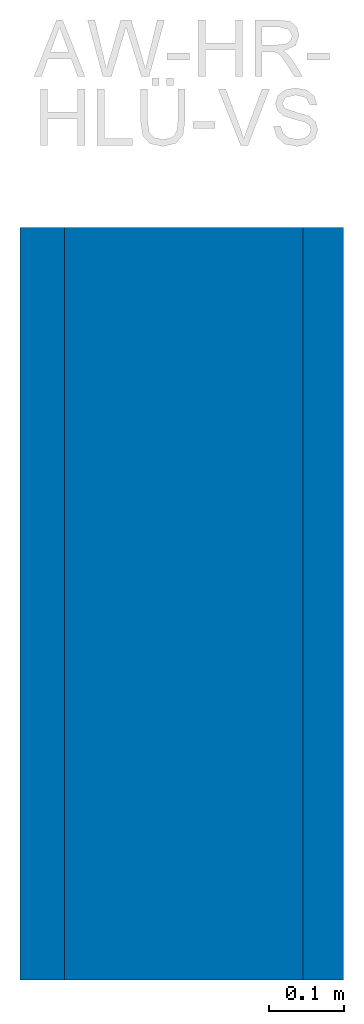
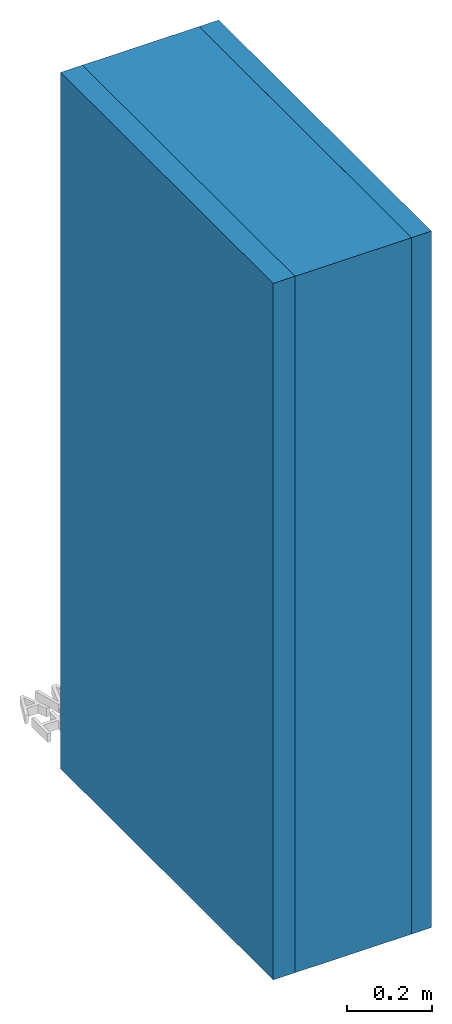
# Not in any storey, part 1 of 2: 3 walls, 1 element without a shape of its own.
"""IFC4 model written with IfcOpenShell, lengths in metres."""

from ifc_helpers import new_model, entity, si_unit, converted_unit, derived_unit, direction, frame, origin, place, context, subcontext, project, spatial, indexed_curve, outline, extrude, material, constituent, constituent_set, type_object, element, aggregate, save


model = new_model("IFC4")

# Units and contexts
model_context = context("Model", 3, precision=1e-05, world=origin(), true_north=direction((6.123031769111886e-17, 1.0)))
body_context = subcontext(model_context, "Body", "Model", "MODEL_VIEW")
ifc_project = project(units=[si_unit("LENGTHUNIT", "METRE"), si_unit("AREAUNIT", "SQUARE_METRE"), si_unit("VOLUMEUNIT", "CUBIC_METRE"), converted_unit("PLANEANGLEUNIT", "DEGREE", entity("IfcRatioMeasure", 0.017453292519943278), si_unit("PLANEANGLEUNIT", "RADIAN"), dimensions=[0, 0, 0, 0, 0, 0, 0]), si_unit("MASSUNIT", "GRAM", prefix="KILO"), derived_unit("MASSDENSITYUNIT", [(si_unit("MASSUNIT", "GRAM", prefix="KILO"), 1), (si_unit("LENGTHUNIT", "METRE"), -3)]), derived_unit("IONCONCENTRATIONUNIT", [(si_unit("MASSUNIT", "GRAM", prefix="KILO"), 1), (si_unit("LENGTHUNIT", "METRE"), -3)]), derived_unit("MOMENTOFINERTIAUNIT", [(si_unit("LENGTHUNIT", "METRE"), 4)]), si_unit("TIMEUNIT", "SECOND"), si_unit("FREQUENCYUNIT", "HERTZ"), si_unit("THERMODYNAMICTEMPERATUREUNIT", "DEGREE_CELSIUS"), derived_unit("THERMALTRANSMITTANCEUNIT", [(si_unit("MASSUNIT", "GRAM", prefix="KILO"), 1), (si_unit("THERMODYNAMICTEMPERATUREUNIT", "KELVIN"), -1), (si_unit("TIMEUNIT", "SECOND"), -3)]), derived_unit("THERMALCONDUCTANCEUNIT", [(si_unit("MASSUNIT", "GRAM", prefix="KILO"), 1), (si_unit("THERMODYNAMICTEMPERATUREUNIT", "KELVIN"), -1), (si_unit("TIMEUNIT", "SECOND"), -3), (si_unit("LENGTHUNIT", "METRE"), 1)]), derived_unit("VOLUMETRICFLOWRATEUNIT", [(si_unit("LENGTHUNIT", "METRE"), 3), (si_unit("TIMEUNIT", "SECOND"), -1)]), derived_unit("MASSFLOWRATEUNIT", [(si_unit("MASSUNIT", "GRAM", prefix="KILO"), 1), (si_unit("TIMEUNIT", "SECOND"), -1)]), derived_unit("ROTATIONALFREQUENCYUNIT", [(si_unit("TIMEUNIT", "SECOND"), -1)]), si_unit("ELECTRICCURRENTUNIT", "AMPERE"), si_unit("ELECTRICVOLTAGEUNIT", "VOLT"), si_unit("POWERUNIT", "WATT"), si_unit("FORCEUNIT", "NEWTON", prefix="KILO"), si_unit("ILLUMINANCEUNIT", "LUX"), si_unit("LUMINOUSFLUXUNIT", "LUMEN"), si_unit("LUMINOUSINTENSITYUNIT", "CANDELA"), derived_unit("USERDEFINED", [(si_unit("MASSUNIT", "GRAM", prefix="KILO"), -1), (si_unit("LENGTHUNIT", "METRE"), -2), (si_unit("TIMEUNIT", "SECOND"), 3), (si_unit("LUMINOUSFLUXUNIT", "LUMEN"), 1)]), derived_unit("USERDEFINED", [(si_unit("MASSUNIT", "GRAM", prefix="KILO"), 1), (si_unit("TIMEUNIT", "SECOND"), -3), (si_unit("LENGTHUNIT", "METRE"), 3), (si_unit("ELECTRICCURRENTUNIT", "AMPERE"), -2)]), derived_unit("SOUNDPOWERUNIT", [(si_unit("MASSUNIT", "GRAM", prefix="KILO"), 1), (si_unit("TIMEUNIT", "SECOND"), -3), (si_unit("LENGTHUNIT", "METRE"), 2)]), derived_unit("SOUNDPRESSUREUNIT", [(si_unit("MASSUNIT", "GRAM", prefix="KILO"), 1), (si_unit("LENGTHUNIT", "METRE"), -1), (si_unit("TIMEUNIT", "SECOND"), -2)]), derived_unit("LINEARVELOCITYUNIT", [(si_unit("LENGTHUNIT", "METRE"), 1), (si_unit("TIMEUNIT", "SECOND"), -1)]), si_unit("PRESSUREUNIT", "PASCAL"), derived_unit("USERDEFINED", [(si_unit("MASSUNIT", "GRAM", prefix="KILO"), 1), (si_unit("LENGTHUNIT", "METRE"), -2), (si_unit("TIMEUNIT", "SECOND"), -2)]), derived_unit("LINEARFORCEUNIT", [(si_unit("MASSUNIT", "GRAM", prefix="KILO"), 1), (si_unit("TIMEUNIT", "SECOND"), -2)]), derived_unit("PLANARFORCEUNIT", [(si_unit("MASSUNIT", "GRAM", prefix="KILO"), 1), (si_unit("LENGTHUNIT", "METRE"), -1), (si_unit("TIMEUNIT", "SECOND"), -2)]), derived_unit("SPECIFICHEATCAPACITYUNIT", [(si_unit("THERMODYNAMICTEMPERATUREUNIT", "KELVIN"), -1), (si_unit("LENGTHUNIT", "METRE"), 2), (si_unit("TIMEUNIT", "SECOND"), -2)]), derived_unit("HEATINGVALUEUNIT", [(si_unit("LENGTHUNIT", "METRE"), 2), (si_unit("TIMEUNIT", "SECOND"), -2)]), derived_unit("VAPORPERMEABILITYUNIT", [(si_unit("LENGTHUNIT", "METRE"), -1), (si_unit("TIMEUNIT", "SECOND"), 1)]), derived_unit("DYNAMICVISCOSITYUNIT", [(si_unit("MASSUNIT", "GRAM", prefix="KILO"), 1), (si_unit("TIMEUNIT", "SECOND"), -1), (si_unit("LENGTHUNIT", "METRE"), -1)]), derived_unit("THERMALEXPANSIONCOEFFICIENTUNIT", [(si_unit("THERMODYNAMICTEMPERATUREUNIT", "KELVIN"), -1)]), derived_unit("MODULUSOFELASTICITYUNIT", [(si_unit("MASSUNIT", "GRAM", prefix="KILO"), 1), (si_unit("LENGTHUNIT", "METRE"), -1), (si_unit("TIMEUNIT", "SECOND"), -2)]), derived_unit("ISOTHERMALMOISTURECAPACITYUNIT", [(si_unit("LENGTHUNIT", "METRE"), 3), (si_unit("MASSUNIT", "GRAM", prefix="KILO"), -1)]), derived_unit("MOISTUREDIFFUSIVITYUNIT", [(si_unit("TIMEUNIT", "SECOND"), -1), (si_unit("LENGTHUNIT", "METRE"), 2)])], contexts=[model_context])

# Site
site_placement = place(None, origin())
site = spatial("IfcSite", under=ifc_project, at=site_placement, Name="Default", CompositionType="ELEMENT")

# Assembly, walls
assembly_placement = place(site_placement, origin())
assembly = element("IfcElementAssembly", 1, at=assembly_placement, inside=site, Name="Wände Baugruppe:fbimSg_Wall_bc_WOD_vis_at_NTR_natuREbuilt_AW-HR-HLÜ-VS_GK3_44cm", ObjectType="Wände Baugruppe:fbimSg_Wall_bc_WOD_vis_at_NTR_natuREbuilt_AW-HR-HLÜ-VS_GK3_44cm", AssemblyPlace="NOTDEFINED", PredefinedType="USERDEFINED")
ifc_material_1 = material(Name="fbim_12400515_AT_025_Vollholz_Bretter_Fichte")
ifc_constituent_1 = constituent(ifc_material_1, Name="fbim_12400515_AT_025_Vollholz_Bretter_Fichte")
ifc_material_2 = material(Name="fbim_14100590_AT_001_Luftschicht")
ifc_constituent_2 = constituent(ifc_material_2, Name="fbim_14100590_AT_001_Luftschicht")
ifc_constituent_set_1 = constituent_set(constituents=[ifc_constituent_1, ifc_constituent_2], Name="Basiswand:fbimSg_Wall_dp_WOD_vis_at_NTR_natuREbuilt_AWRh-gk_GK3_a_4cm")
wall_type_1 = type_object("IfcWallType", Name="Basiswand:fbimSg_Wall_dp_WOD_vis_at_NTR_natuREbuilt_AWRh-gk_GK3_a_4cm", PredefinedType="STANDARD", material=ifc_constituent_set_1)
wall_1_placement = place(assembly_placement, frame((2.452367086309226, 47.659743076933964, 0.0), z_axis=(0.0, 0.0, 1.0), x_axis=(0.0, -1.0, 0.0)))
wall_1 = element("IfcWall", 2, at=wall_1_placement, type_object=wall_type_1, material=ifc_constituent_set_1, Name="Basiswand:fbimSg_Wall_dp_WOD_vis_at_NTR_natuREbuilt_AWRh-gk_GK3_a_4cm", ObjectType="Basiswand:fbimSg_Wall_dp_WOD_vis_at_NTR_natuREbuilt_AWRh-gk_GK3_a_4cm", PredefinedType="NOTDEFINED", context=body_context, shape_type="SweptSolid", body=[
    extrude(outline(indexed_curve([(-0.020000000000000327, -0.49999999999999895), (0.019999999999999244, -0.49999999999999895), (0.020000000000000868, 0.49999999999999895), (-0.019999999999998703, 0.49999999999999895), (-0.020000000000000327, -0.49999999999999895)], self_intersect=False)), frame((0.49999999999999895, 0.009500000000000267, 0.0), z_axis=(0.0, 0.0, 1.0), x_axis=(0.0, -1.0, 0.0)), (0.0, 0.0, 1.0), 1.9999999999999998),
    extrude(outline(indexed_curve([(-0.00950000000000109, -0.49999999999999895), (0.009499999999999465, -0.49999999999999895), (0.00950000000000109, 0.49999999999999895), (-0.009499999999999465, 0.49999999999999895), (-0.00950000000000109, -0.49999999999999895)], self_intersect=False)), frame((0.49999999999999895, -0.02000000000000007, 0.0), z_axis=(0.0, 0.0, 1.0), x_axis=(0.0, 1.0, 0.0)), (0.0, 0.0, 1.0), 1.9999999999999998),
])
ifc_constituent_3 = constituent(ifc_material_1, Name="fbim_12400515_AT_025_Vollholz_Bretter_Fichte")
ifc_material_3 = material(Name="fbim_14100500_at_NTR_Zellulose-Einblasdaemmung")
ifc_constituent_4 = constituent(ifc_material_3, Name="fbim_14100500_at_NTR_Zellulose-Einblasdaemmung")
ifc_material_4 = material(Name="fbim_12401520_AT_OSB")
ifc_constituent_5 = constituent(ifc_material_4, Name="fbim_12401520_AT_OSB")
ifc_constituent_set_2 = constituent_set(constituents=[ifc_constituent_3, ifc_constituent_4, ifc_constituent_5], Name="Basiswand:fbimSg_Wall_sb_WOD_vis_at_NTR_natuREbuilt_AWRh-gk_GK3_k_28cm")
wall_type_2 = type_object("IfcWallType", Name="Basiswand:fbimSg_Wall_sb_WOD_vis_at_NTR_natuREbuilt_AWRh-gk_GK3_k_28cm", PredefinedType="STANDARD", material=ifc_constituent_set_2)
wall_2_placement = place(assembly_placement, frame((2.6403670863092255, 47.659743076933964, 0.0), z_axis=(0.0, 0.0, 1.0), x_axis=(0.0, -1.0, 0.0)))
wall_2 = element("IfcWall", 3, at=wall_2_placement, type_object=wall_type_2, material=ifc_constituent_set_2, Name="Basiswand:fbimSg_Wall_sb_WOD_vis_at_NTR_natuREbuilt_AWRh-gk_GK3_k_28cm", ObjectType="Basiswand:fbimSg_Wall_sb_WOD_vis_at_NTR_natuREbuilt_AWRh-gk_GK3_k_28cm", PredefinedType="NOTDEFINED", context=body_context, shape_type="SweptSolid", body=[
    extrude(outline(indexed_curve([(-0.007500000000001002, -0.49999999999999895), (0.007499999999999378, -0.49999999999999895), (0.007500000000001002, 0.49999999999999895), (-0.007499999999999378, 0.49999999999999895), (-0.007500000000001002, -0.49999999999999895)], self_intersect=False)), frame((0.4999999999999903, 0.15100000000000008, 0.0), z_axis=(0.0, 0.0, 1.0), x_axis=(0.0, -1.0, 0.0)), (0.0, 0.0, 1.0), 1.9999999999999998),
    extrude(outline(indexed_curve([(-0.4999999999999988, -0.13999999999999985), (0.49999999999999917, -0.13999999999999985), (0.49999999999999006, 0.13999999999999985), (-0.49999999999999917, 0.13999999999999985), (-0.4999999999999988, -0.13999999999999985)], self_intersect=False)), frame((0.49999999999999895, 0.003500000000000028, 0.0)), (0.0, 0.0, 1.0), 1.9999999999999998),
    extrude(outline(indexed_curve([(-0.011000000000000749, -0.49999999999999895), (0.010999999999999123, -0.49999999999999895), (0.011000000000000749, 0.49999999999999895), (-0.010999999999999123, 0.49999999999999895), (-0.011000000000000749, -0.49999999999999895)], self_intersect=False)), frame((0.49999999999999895, -0.14749999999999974, 0.0), z_axis=(0.0, 0.0, 1.0), x_axis=(0.0, 1.0, 0.0)), (0.0, 0.0, 1.0), 1.9999999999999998),
])
ifc_material_5 = material(Name="fbim_14100510_at_NTR_Hanffaserdaemmung")
ifc_constituent_6 = constituent(ifc_material_5, Name="fbim_14100510_at_NTR_Hanffaserdaemmung")
ifc_material_6 = material(Name="fbim_16101505_AT_Gipsfaserplatte", Category="Gipsputz")
ifc_constituent_7 = constituent(ifc_material_6, Name="fbim_16101505_AT_Gipsfaserplatte", Category="Gipsputz")
ifc_material_7 = material(Name="fbim_14153005_AT_001_KlebeArmierspachtel_min")
ifc_constituent_8 = constituent(ifc_material_7, Name="fbim_14153005_AT_001_KlebeArmierspachtel_min")
ifc_constituent_set_3 = constituent_set(constituents=[ifc_constituent_6, ifc_constituent_7, ifc_constituent_8], Name="Basiswand:fbimSg_Wall_dp_DRW_vis_at_NTR_natuREbuilt_AWRh-gk_GK3_i_2,5cm")
wall_type_3 = type_object("IfcWallType", Name="Basiswand:fbimSg_Wall_dp_DRW_vis_at_NTR_natuREbuilt_AWRh-gk_GK3_i_2,5cm", PredefinedType="STANDARD", material=ifc_constituent_set_3)
wall_3_placement = place(assembly_placement, frame((2.825617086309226, 47.659743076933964, 0.0), z_axis=(0.0, 0.0, 1.0), x_axis=(0.0, -1.0, 0.0)))
wall_3 = element("IfcWall", 4, at=wall_3_placement, type_object=wall_type_3, material=ifc_constituent_set_3, Name="Basiswand:fbimSg_Wall_dp_DRW_vis_at_NTR_natuREbuilt_AWRh-gk_GK3_i_2,5cm", ObjectType="Basiswand:fbimSg_Wall_dp_DRW_vis_at_NTR_natuREbuilt_AWRh-gk_GK3_i_2,5cm", PredefinedType="NOTDEFINED", context=body_context, shape_type="SweptSolid", body=[
    extrude(outline(indexed_curve([(-0.0005000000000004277, -0.49999999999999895), (0.0004999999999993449, -0.49999999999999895), (0.0005000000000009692, 0.49999999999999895), (-0.0004999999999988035, 0.49999999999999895), (-0.0005000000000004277, -0.49999999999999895)], self_intersect=False)), frame((0.49999999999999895, 0.026250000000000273, 0.0), z_axis=(0.0, 0.0, 1.0), x_axis=(0.0, -1.0, 0.0)), (0.0, 0.0, 1.0), 1.9999999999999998),
    extrude(outline(indexed_curve([(-0.49999999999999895, -0.006249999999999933), (0.49999999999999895, -0.006249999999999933), (0.5000000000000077, 0.006249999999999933), (-0.49999999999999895, 0.006249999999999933), (-0.49999999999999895, -0.006249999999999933)], self_intersect=False)), frame((0.49999999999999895, 0.01950000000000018, 0.0)), (0.0, 0.0, 1.0), 1.9999999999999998),
    extrude(outline(indexed_curve([(-0.020000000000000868, -0.49999999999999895), (0.019999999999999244, -0.49999999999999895), (0.020000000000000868, 0.49999999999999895), (-0.019999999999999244, 0.49999999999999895), (-0.020000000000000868, -0.49999999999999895)], self_intersect=False)), frame((0.49999999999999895, -0.006749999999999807, 0.0), z_axis=(0.0, 0.0, 1.0), x_axis=(0.0, 1.0, 0.0)), (0.0, 0.0, 1.0), 1.9999999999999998),
])
aggregate(assembly, [wall_1, wall_2, wall_3])

save(model, "model.ifc")
